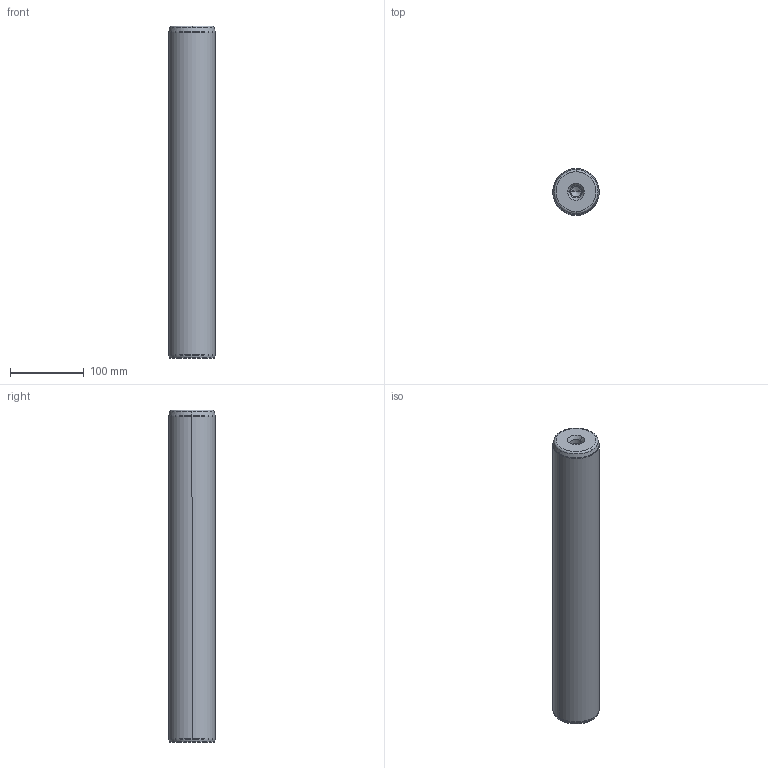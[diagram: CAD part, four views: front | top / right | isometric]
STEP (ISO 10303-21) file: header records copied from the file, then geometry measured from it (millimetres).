
FILE_DESCRIPTION((''),'2;1');
FILE_NAME('P10_063_450.stp','2008-12-23T16:17:56',(''),(''),'Mechanical Desktop 2009','Mechanical Desktop 2009',', , ');
FILE_SCHEMA(('CONFIG_CONTROL_DESIGN'));
Length unit declared in the file: millimetre
Products named in the file (5): Product; ProductAA; blmdl1; ProductA; blmdl1A
Assembly tree (2 placements, depth 3):
  Product
    ProductAA
      blmdl1
  ProductA
  blmdl1A
Bounding box: 63 x 63 x 450 mm (x, y, z)
Volume: 1392056.5 mm3; surface area: 96567.5 mm2
Topology: 1 solids, 1 shells, 26 faces, 66 edges, 41 vertices
Faces by surface type: cone 10, torus 8, cylinder 6, plane 2
Entity records: 1012 total; most frequent: DIRECTION 170, CARTESIAN_POINT 134, ORIENTED_EDGE 128, AXIS2_PLACEMENT_3D 77, EDGE_CURVE 64, CIRCLE 48, VERTEX_POINT 41, EDGE_LOOP 27
